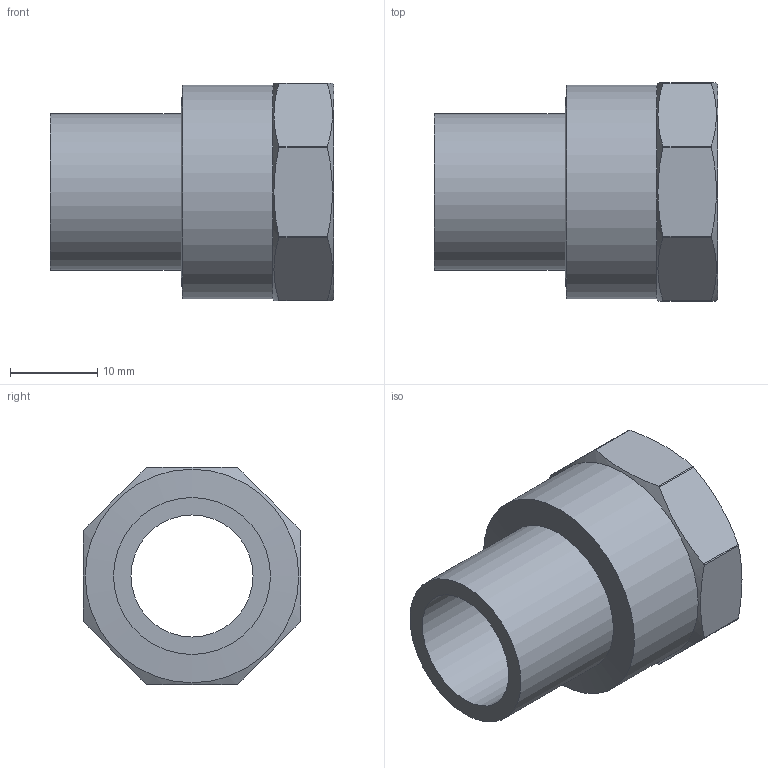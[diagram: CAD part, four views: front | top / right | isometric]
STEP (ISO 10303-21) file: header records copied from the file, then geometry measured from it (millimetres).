
FILE_DESCRIPTION(/* description */ (''),/* implementation_level */ '2;1');
FILE_NAME(/* name */ 'C:\Users\gomulka\Desktop\Nowy folder (2)\14246_18-12(3).stp',/* time_stamp */ '2017-10-19T09:39:53+02:00',/* author */ ('gomulka'),/* organization */ (''),/* preprocessor_version */ 'ST-DEVELOPER v15.6',/* originating_system */ 'Autodesk Inventor 2015',/* authorisation */ '');
FILE_SCHEMA (('AUTOMOTIVE_DESIGN { 1 0 10303 214 3 1 1 }'));
Length unit declared in the file: millimetre
Products named in the file (1): 14246_18-12(3
Bounding box: 32.5 x 25 x 25 mm (x, y, z)
Volume: 5148.7 mm3; surface area: 4668.2 mm2
Topology: 1 solids, 1 shells, 30 faces, 74 edges, 47 vertices
Faces by surface type: cylinder 13, plane 11, cone 5, torus 1
Full cylindrical faces by diameter (mm): 14 x1, 18 x1, 18.63 x1, 21.7 x1, 24.5 x1
Entity records: 830 total; most frequent: CARTESIAN_POINT 169, DIRECTION 136, ORIENTED_EDGE 122, EDGE_CURVE 61, AXIS2_PLACEMENT_3D 60, VERTEX_POINT 45, EDGE_LOOP 44, FACE_OUTER_BOUND 30
